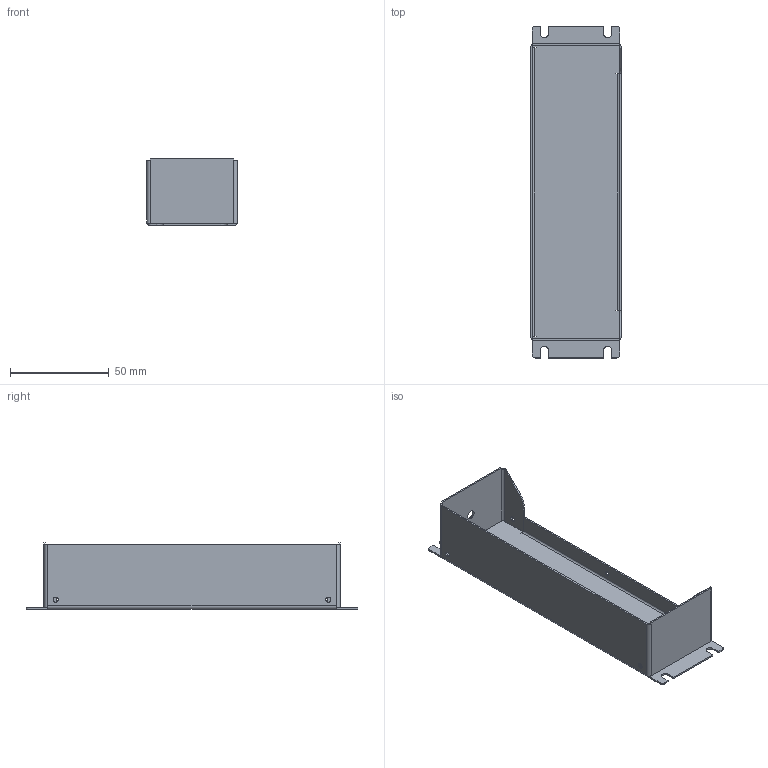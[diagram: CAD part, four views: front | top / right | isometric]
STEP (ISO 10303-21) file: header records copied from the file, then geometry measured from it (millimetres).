
FILE_DESCRIPTION(('STEP AP203'), '1');
FILE_NAME('扻豵鵨 _ IEF-5.5_15.5-4 G3', '', ('UNSPECIFIED'), ('UNSPECIFIED'), 'C3D Converter', 'C3D Toolkit', '');
FILE_SCHEMA(('CONFIG_CONTROL_DESIGN'));
Length unit declared in the file: millimetre
Products named in the file (1): IEF-5.5/15.5-4 G3
Bounding box: 46 x 168 x 33.9 mm (x, y, z)
Volume: 13532.1 mm3; surface area: 34513.1 mm2
Topology: 1 solids, 1 shells, 110 faces, 276 edges, 168 vertices
Faces by surface type: plane 82, cylinder 28
Full cylindrical faces by diameter (mm): 2.6 x5, 4.5 x1
Entity records: 4126 total; most frequent: CARTESIAN_POINT 549, DIRECTION 548, ORIENTED_EDGE 540, EDGE_CURVE 270, LINE 214, VECTOR 214, VERTEX_POINT 168, AXIS2_PLACEMENT_3D 167
